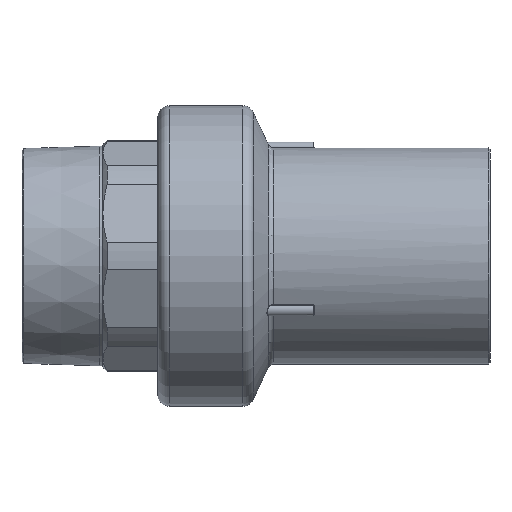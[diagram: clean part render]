
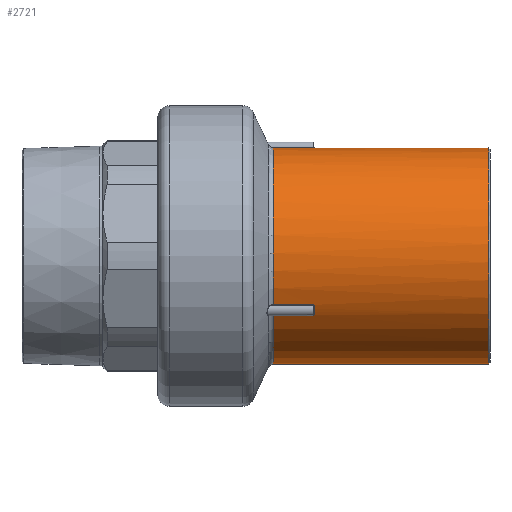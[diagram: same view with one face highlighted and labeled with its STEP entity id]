
A CAD part, front view. The second image highlights one B-rep face of the part: STEP entity #2721.
In plain terms, the highlighted cylindrical face has radius 37.5 mm (diameter 75 mm), a full revolution.
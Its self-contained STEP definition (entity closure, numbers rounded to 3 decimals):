
#79=B_SPLINE_CURVE_WITH_KNOTS('',3,(#5102,#5103,#5104,#5105),
 .UNSPECIFIED.,.F.,.F.,(4,4),(0.,0.),.UNSPECIFIED.);
#80=B_SPLINE_CURVE_WITH_KNOTS('',3,(#5124,#5125,#5126,#5127),
 .UNSPECIFIED.,.F.,.F.,(4,4),(0.,0.),.UNSPECIFIED.);
#81=B_SPLINE_CURVE_WITH_KNOTS('',3,(#5148,#5149,#5150,#5151),
 .UNSPECIFIED.,.F.,.F.,(4,4),(0.,0.),.UNSPECIFIED.);
#82=B_SPLINE_CURVE_WITH_KNOTS('',3,(#5170,#5171,#5172,#5173),
 .UNSPECIFIED.,.F.,.F.,(4,4),(0.,0.),.UNSPECIFIED.);
#83=B_SPLINE_CURVE_WITH_KNOTS('',3,(#5194,#5195,#5196,#5197),
 .UNSPECIFIED.,.F.,.F.,(4,4),(0.,0.),.UNSPECIFIED.);
#84=B_SPLINE_CURVE_WITH_KNOTS('',3,(#5216,#5217,#5218,#5219),
 .UNSPECIFIED.,.F.,.F.,(4,4),(0.,0.),.UNSPECIFIED.);
#185=LINE('',#5089,#349);
#186=LINE('',#5131,#350);
#187=LINE('',#5135,#351);
#188=LINE('',#5177,#352);
#189=LINE('',#5181,#353);
#190=LINE('',#5223,#354);
#349=VECTOR('',#4062,1000.);
#350=VECTOR('',#4075,1000.);
#351=VECTOR('',#4080,1000.);
#352=VECTOR('',#4093,1000.);
#353=VECTOR('',#4098,1000.);
#354=VECTOR('',#4111,1000.);
#920=ORIENTED_EDGE('',*,*,#1507,.F.);
#921=ORIENTED_EDGE('',*,*,#1499,.T.);
#922=ORIENTED_EDGE('',*,*,#1497,.F.);
#923=ORIENTED_EDGE('',*,*,#1495,.T.);
#924=ORIENTED_EDGE('',*,*,#1493,.F.);
#925=ORIENTED_EDGE('',*,*,#1492,.T.);
#926=ORIENTED_EDGE('',*,*,#1501,.F.);
#927=ORIENTED_EDGE('',*,*,#1490,.T.);
#928=ORIENTED_EDGE('',*,*,#1488,.F.);
#929=ORIENTED_EDGE('',*,*,#1486,.T.);
#930=ORIENTED_EDGE('',*,*,#1484,.F.);
#931=ORIENTED_EDGE('',*,*,#1483,.T.);
#932=ORIENTED_EDGE('',*,*,#1504,.F.);
#933=ORIENTED_EDGE('',*,*,#1481,.T.);
#934=ORIENTED_EDGE('',*,*,#1479,.F.);
#935=ORIENTED_EDGE('',*,*,#1477,.T.);
#936=ORIENTED_EDGE('',*,*,#1475,.F.);
#937=ORIENTED_EDGE('',*,*,#1474,.T.);
#938=ORIENTED_EDGE('',*,*,#1513,.T.);
#1474=EDGE_CURVE('',#1816,#1814,#185,.T.);
#1475=EDGE_CURVE('',#1816,#1817,#79,.T.);
#1477=EDGE_CURVE('',#1818,#1817,#2034,.F.);
#1479=EDGE_CURVE('',#1818,#1819,#80,.T.);
#1481=EDGE_CURVE('',#1809,#1819,#186,.F.);
#1483=EDGE_CURVE('',#1820,#1804,#187,.T.);
#1484=EDGE_CURVE('',#1820,#1821,#81,.T.);
#1486=EDGE_CURVE('',#1822,#1821,#2039,.F.);
#1488=EDGE_CURVE('',#1822,#1823,#82,.T.);
#1490=EDGE_CURVE('',#1801,#1823,#188,.F.);
#1492=EDGE_CURVE('',#1824,#1796,#189,.T.);
#1493=EDGE_CURVE('',#1824,#1825,#83,.T.);
#1495=EDGE_CURVE('',#1826,#1825,#2044,.F.);
#1497=EDGE_CURVE('',#1826,#1827,#84,.T.);
#1499=EDGE_CURVE('',#1813,#1827,#190,.F.);
#1501=EDGE_CURVE('',#1801,#1796,#2047,.T.);
#1504=EDGE_CURVE('',#1809,#1804,#2049,.T.);
#1507=EDGE_CURVE('',#1813,#1814,#2051,.T.);
#1513=EDGE_CURVE('',#1832,#1832,#2057,.F.);
#1796=VERTEX_POINT('',#4910);
#1801=VERTEX_POINT('',#4943);
#1804=VERTEX_POINT('',#4982);
#1809=VERTEX_POINT('',#5015);
#1813=VERTEX_POINT('',#5056);
#1814=VERTEX_POINT('',#5078);
#1816=VERTEX_POINT('',#5088);
#1817=VERTEX_POINT('',#5106);
#1818=VERTEX_POINT('',#5110);
#1819=VERTEX_POINT('',#5128);
#1820=VERTEX_POINT('',#5134);
#1821=VERTEX_POINT('',#5152);
#1822=VERTEX_POINT('',#5156);
#1823=VERTEX_POINT('',#5174);
#1824=VERTEX_POINT('',#5180);
#1825=VERTEX_POINT('',#5198);
#1826=VERTEX_POINT('',#5202);
#1827=VERTEX_POINT('',#5220);
#1832=VERTEX_POINT('',#5332);
#2034=CIRCLE('',#3525,37.5);
#2039=CIRCLE('',#3533,37.5);
#2044=CIRCLE('',#3541,37.5);
#2047=CIRCLE('',#3546,37.5);
#2049=CIRCLE('',#3549,37.5);
#2051=CIRCLE('',#3552,37.5);
#2057=CIRCLE('',#3564,37.5);
#2250=EDGE_LOOP('',(#920,#921,#922,#923,#924,#925,#926,#927,#928,#929,#930,
#931,#932,#933,#934,#935,#936,#937));
#2251=EDGE_LOOP('',(#938));
#2476=FACE_BOUND('',#2250,.T.);
#2477=FACE_BOUND('',#2251,.T.);
#2611=CYLINDRICAL_SURFACE('',#3563,37.5);
#2721=ADVANCED_FACE('',(#2476,#2477),#2611,.T.);
#3525=AXIS2_PLACEMENT_3D('',#5109,#4067,#4068);
#3533=AXIS2_PLACEMENT_3D('',#5155,#4085,#4086);
#3541=AXIS2_PLACEMENT_3D('',#5201,#4103,#4104);
#3546=AXIS2_PLACEMENT_3D('',#5253,#4114,#4115);
#3549=AXIS2_PLACEMENT_3D('',#5284,#4120,#4121);
#3552=AXIS2_PLACEMENT_3D('',#5315,#4126,#4127);
#3563=AXIS2_PLACEMENT_3D('',#5330,#4148,#4149);
#3564=AXIS2_PLACEMENT_3D('',#5331,#4150,#4151);
#4062=DIRECTION('',(-1.,0.,0.));
#4067=DIRECTION('',(-1.,0.,0.));
#4068=DIRECTION('',(0.,0.5,0.866));
#4075=DIRECTION('',(-1.,0.,0.));
#4080=DIRECTION('',(-1.,0.,0.));
#4085=DIRECTION('',(-1.,0.,0.));
#4086=DIRECTION('',(0.,0.5,-0.866));
#4093=DIRECTION('',(-1.,0.,0.));
#4098=DIRECTION('',(-1.,0.,0.));
#4103=DIRECTION('',(-1.,0.,0.));
#4104=DIRECTION('',(0.,-1.,0.));
#4111=DIRECTION('',(-1.,0.,0.));
#4114=DIRECTION('',(-1.,0.,0.));
#4115=DIRECTION('',(0.,0.,1.));
#4120=DIRECTION('',(-1.,0.,0.));
#4121=DIRECTION('',(0.,0.,1.));
#4126=DIRECTION('',(-1.,0.,0.));
#4127=DIRECTION('',(0.,0.,1.));
#4148=DIRECTION('',(-1.,0.,0.));
#4149=DIRECTION('',(0.,0.,1.));
#4150=DIRECTION('',(1.,0.,0.));
#4151=DIRECTION('',(0.,0.,-1.));
#4910=CARTESIAN_POINT('',(40.,-2.092,37.442));
#4943=CARTESIAN_POINT('',(40.,-33.472,-16.909));
#4982=CARTESIAN_POINT('',(40.,-31.379,-20.533));
#5015=CARTESIAN_POINT('',(40.,31.379,-20.533));
#5056=CARTESIAN_POINT('',(40.,2.092,37.442));
#5078=CARTESIAN_POINT('',(40.,33.472,-16.909));
#5088=CARTESIAN_POINT('',(53.9,33.472,-16.909));
#5089=CARTESIAN_POINT('',(-60.,33.472,-16.909));
#5102=CARTESIAN_POINT('',(53.9,33.472,-16.909));
#5103=CARTESIAN_POINT('',(54.006,33.472,-16.909));
#5104=CARTESIAN_POINT('',(54.1,33.429,-16.993));
#5105=CARTESIAN_POINT('',(54.1,33.381,-17.088));
#5106=CARTESIAN_POINT('',(54.1,33.381,-17.088));
#5109=CARTESIAN_POINT('',(54.1,0.,0.));
#5110=CARTESIAN_POINT('',(54.1,31.489,-20.365));
#5124=CARTESIAN_POINT('',(54.1,31.489,-20.365));
#5125=CARTESIAN_POINT('',(54.1,31.431,-20.453));
#5126=CARTESIAN_POINT('',(54.006,31.379,-20.533));
#5127=CARTESIAN_POINT('',(53.9,31.379,-20.533));
#5128=CARTESIAN_POINT('',(53.9,31.379,-20.533));
#5131=CARTESIAN_POINT('',(-60.,31.379,-20.533));
#5134=CARTESIAN_POINT('',(53.9,-31.379,-20.533));
#5135=CARTESIAN_POINT('',(-60.,-31.379,-20.533));
#5148=CARTESIAN_POINT('',(53.9,-31.379,-20.533));
#5149=CARTESIAN_POINT('',(54.006,-31.379,-20.533));
#5150=CARTESIAN_POINT('',(54.1,-31.431,-20.453));
#5151=CARTESIAN_POINT('',(54.1,-31.489,-20.365));
#5152=CARTESIAN_POINT('',(54.1,-31.489,-20.365));
#5155=CARTESIAN_POINT('',(54.1,0.,0.));
#5156=CARTESIAN_POINT('',(54.1,-33.381,-17.088));
#5170=CARTESIAN_POINT('',(54.1,-33.381,-17.088));
#5171=CARTESIAN_POINT('',(54.1,-33.429,-16.993));
#5172=CARTESIAN_POINT('',(54.006,-33.472,-16.909));
#5173=CARTESIAN_POINT('',(53.9,-33.472,-16.909));
#5174=CARTESIAN_POINT('',(53.9,-33.472,-16.909));
#5177=CARTESIAN_POINT('',(-60.,-33.472,-16.909));
#5180=CARTESIAN_POINT('',(53.9,-2.092,37.442));
#5181=CARTESIAN_POINT('',(-60.,-2.092,37.442));
#5194=CARTESIAN_POINT('',(53.9,-2.092,37.442));
#5195=CARTESIAN_POINT('',(54.006,-2.092,37.442));
#5196=CARTESIAN_POINT('',(54.1,-1.998,37.447));
#5197=CARTESIAN_POINT('',(54.1,-1.892,37.452));
#5198=CARTESIAN_POINT('',(54.1,-1.892,37.452));
#5201=CARTESIAN_POINT('',(54.1,0.,0.));
#5202=CARTESIAN_POINT('',(54.1,1.892,37.452));
#5216=CARTESIAN_POINT('',(54.1,1.892,37.452));
#5217=CARTESIAN_POINT('',(54.1,1.998,37.447));
#5218=CARTESIAN_POINT('',(54.006,2.092,37.442));
#5219=CARTESIAN_POINT('',(53.9,2.092,37.442));
#5220=CARTESIAN_POINT('',(53.9,2.092,37.442));
#5223=CARTESIAN_POINT('',(-60.,2.092,37.442));
#5253=CARTESIAN_POINT('',(40.,0.,0.));
#5284=CARTESIAN_POINT('',(40.,0.,0.));
#5315=CARTESIAN_POINT('',(40.,0.,0.));
#5330=CARTESIAN_POINT('',(-60.,0.,0.));
#5331=CARTESIAN_POINT('',(114.5,0.,0.));
#5332=CARTESIAN_POINT('',(114.5,0.,-37.5));
